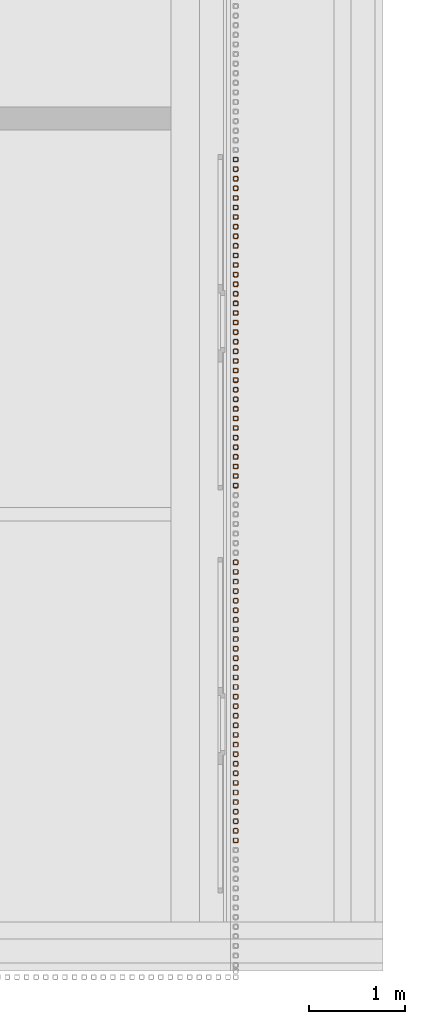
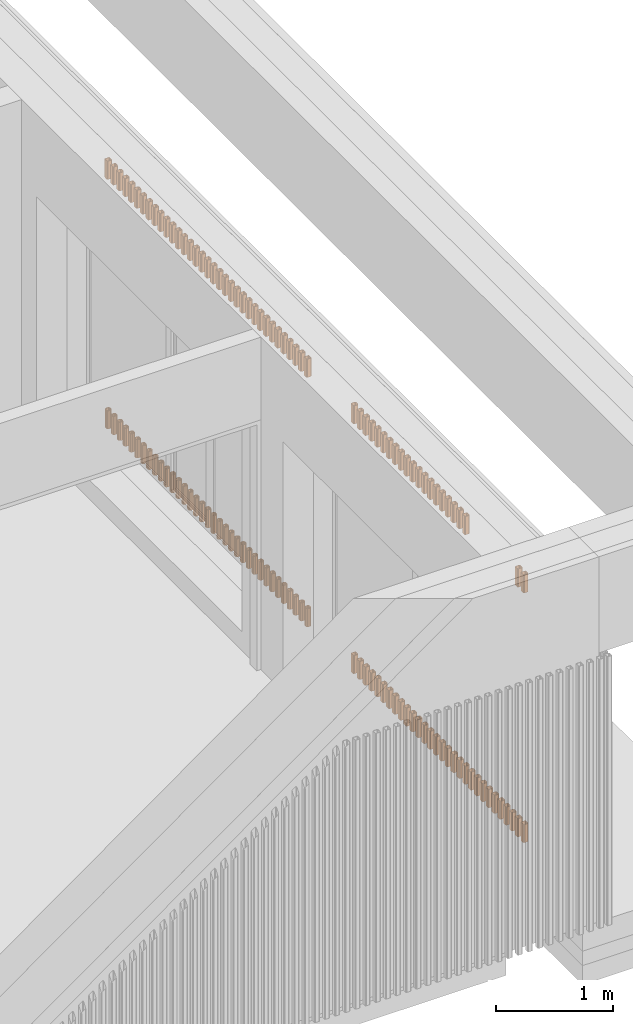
# One storey, part 91 of 112: 122 proxies.
"""IFC2X3 building model written with IfcOpenShell, lengths in millimetres."""

from ifc_helpers import new_model, entity, si_unit, converted_unit, derived_unit, money_unit, direction, frame, origin_with_axes, place, context, subcontext, project, spatial, faceted_brep, source, transform, mapped, material, type_object, element, save


model = new_model("IFC2X3")

# Units and contexts
model_context = context("Model", 3, precision=0.01, world=origin_with_axes(), true_north=direction((0.0, 1.0)))
body_context = subcontext(model_context, "Body", "Model", "MODEL_VIEW")
ifc_project = project(units=[si_unit("LENGTHUNIT", "METRE", prefix="MILLI"), si_unit("AREAUNIT", "SQUARE_METRE"), si_unit("VOLUMEUNIT", "CUBIC_METRE"), converted_unit("PLANEANGLEUNIT", "DEGREE", entity("IfcPlaneAngleMeasure", 0.0174532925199), si_unit("PLANEANGLEUNIT", "RADIAN"), dimensions=[0, 0, 0, 0, 0, 0, 0]), si_unit("SOLIDANGLEUNIT", "STERADIAN"), money_unit("EUR"), converted_unit("TIMEUNIT", "Year", entity("IfcTimeMeasure", 31556926.0), si_unit("TIMEUNIT", "SECOND"), dimensions=[0, 0, 1, 0, 0, 0, 0]), si_unit("MASSUNIT", "GRAM", prefix="KILO"), si_unit("THERMODYNAMICTEMPERATUREUNIT", "DEGREE_CELSIUS"), si_unit("LUMINOUSINTENSITYUNIT", "LUMEN"), si_unit("ENERGYUNIT", "JOULE", prefix="MEGA"), derived_unit("THERMALCONDUCTANCEUNIT", [(si_unit("POWERUNIT", "WATT"), 1), (si_unit("LENGTHUNIT", "METRE"), -1), (si_unit("THERMODYNAMICTEMPERATUREUNIT", "KELVIN"), -1)]), derived_unit("SPECIFICHEATCAPACITYUNIT", [(si_unit("ENERGYUNIT", "JOULE"), 1), (si_unit("MASSUNIT", "GRAM", prefix="KILO"), -1), (si_unit("THERMODYNAMICTEMPERATUREUNIT", "KELVIN"), -1)]), derived_unit("MASSDENSITYUNIT", [(si_unit("MASSUNIT", "GRAM", prefix="KILO"), 1), (si_unit("VOLUMEUNIT", "CUBIC_METRE"), -1)])], contexts=[model_context])

# Site, building, storey
site_placement = place(None, origin_with_axes())
site = spatial("IfcSite", under=ifc_project, at=site_placement, Name="Politse- ja Piirivalveameti ning Päästeameti ühishoone", CompositionType="ELEMENT")
building_placement = place(site_placement, origin_with_axes())
building = spatial("IfcBuilding", under=site, at=building_placement, Name="Politse- ja Piirivalveameti ning Päästeameti ühishoone", CompositionType="ELEMENT")
storey_placement = place(building_placement, origin_with_axes())
storey = spatial("IfcBuildingStorey", under=building, at=storey_placement, Name="Esimene korrus", CompositionType="ELEMENT", Elevation=0.0)

# Proxies
ifc_material = material(Name="ET-05_Teras")
building_element_proxy_type = type_object("IfcBuildingElementProxyType", Name="SHS Cold-Formed Column 23", PredefinedType="NOTDEFINED")
shared_shape_1 = source(origin_with_axes(), body_context, "Body", "Brep", [
    faceted_brep([(-8.992, -25.0, 0.0), (8.992, -25.0, 0.0), (8.992, -25.0, 190.0), (-8.992, -25.0, 190.0), (-20.3113653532, -20.3113653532, 0.0), (-25.0, -8.992, 0.0), (-25.0, 8.992, 0.0), (-20.3113653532, 20.3113653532, 0.0), (-8.992, 25.0, 0.0), (8.992, 25.0, 0.0), (20.3113653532, 20.3113653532, 0.0), (25.0, 8.992, 0.0), (25.0, -8.992, 0.0), (20.3113653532, -20.3113653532, 0.0), (-8.992, -16.996, 0.0), (8.992, -16.996, 0.0), (14.6516826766, -14.6516826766, 0.0), (16.996, -8.992, 0.0), (16.996, 8.992, 0.0), (14.6516826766, 14.6516826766, 0.0), (8.992, 16.996, 0.0), (-8.992, 16.996, 0.0), (-14.6516826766, 14.6516826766, 0.0), (-16.996, 8.992, 0.0), (-16.996, -8.992, 0.0), (-14.6516826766, -14.6516826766, 0.0), (20.3113653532, -20.3113653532, 190.0), (25.0, -8.992, 190.0), (25.0, 8.992, 190.0), (20.3113653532, 20.3113653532, 190.0), (8.992, 25.0, 190.0), (-8.992, 25.0, 190.0), (-20.3113653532, 20.3113653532, 190.0), (-25.0, 8.992, 190.0), (-25.0, -8.992, 190.0), (-20.3113653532, -20.3113653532, 190.0), (-8.992, -16.996, 190.0), (-14.6516826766, -14.6516826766, 190.0), (-16.996, -8.992, 190.0), (-16.996, 8.992, 190.0), (-14.6516826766, 14.6516826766, 190.0), (-8.992, 16.996, 190.0), (8.992, 16.996, 190.0), (14.6516826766, 14.6516826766, 190.0), (16.996, 8.992, 190.0), (16.996, -8.992, 190.0), (14.6516826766, -14.6516826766, 190.0), (8.992, -16.996, 190.0)], [[[0, 1, 2, 3]], [[0, 4, 5, 6, 7, 8, 9, 10, 11, 12, 13, 1], [14, 15, 16, 17, 18, 19, 20, 21, 22, 23, 24, 25]], [[1, 13, 26, 2]], [[3, 2, 26, 27, 28, 29, 30, 31, 32, 33, 34, 35], [36, 37, 38, 39, 40, 41, 42, 43, 44, 45, 46, 47]], [[4, 0, 3, 35]], [[5, 4, 35, 34]], [[6, 5, 34, 33]], [[7, 6, 33, 32]], [[8, 7, 32, 31]], [[9, 8, 31, 30]], [[10, 9, 30, 29]], [[11, 10, 29, 28]], [[12, 11, 28, 27]], [[13, 12, 27, 26]], [[15, 14, 36, 47]], [[16, 15, 47, 46]], [[17, 16, 46, 45]], [[18, 17, 45, 44]], [[19, 18, 44, 43]], [[20, 19, 43, 42]], [[21, 20, 42, 41]], [[22, 21, 41, 40]], [[23, 22, 40, 39]], [[24, 23, 39, 38]], [[25, 24, 38, 37]], [[14, 25, 37, 36]]]),
])
for number, where, z_axis, x_axis in (
    (1, (68635.2095212, 7850.07024411, 0.0), (0.0, 0.0, 1.0), (1.0, 0.0, 0.0)),
    (2, (68635.2095212, 7950.07024411, 0.0), (0.0, 0.0, 1.0), (1.0, 0.0, 0.0)),
    (3, (68635.2095212, 4550.07024411, 0.0), (0.0, 0.0, 1.0), (1.0, 0.0, 0.0)),
    (4, (68635.2095212, 4650.07024411, 0.0), (0.0, 0.0, 1.0), (1.0, 0.0, 0.0)),
    (5, (68635.2095212, 4750.07024411, 0.0), (0.0, 0.0, 1.0), (1.0, 0.0, 0.0)),
    (6, (68635.2095212, 4850.07024411, 0.0), (0.0, 0.0, 1.0), (1.0, 0.0, 0.0)),
    (7, (68635.2095212, 4950.07024411, 0.0), (0.0, 0.0, 1.0), (1.0, 0.0, 0.0)),
    (8, (68635.2095212, 5050.07024411, 0.0), (0.0, 0.0, 1.0), (1.0, 0.0, 0.0)),
    (9, (68635.2095212, 5150.07024411, 0.0), (0.0, 0.0, 1.0), (1.0, 0.0, 0.0)),
    (10, (68635.2095212, 5250.07024411, 0.0), (0.0, 0.0, 1.0), (1.0, 0.0, 0.0)),
    (11, (68635.2095212, 5350.07024411, 0.0), (0.0, 0.0, 1.0), (1.0, 0.0, 0.0)),
    (12, (68635.2095212, 5450.07024411, 0.0), (0.0, 0.0, 1.0), (1.0, 0.0, 0.0)),
    (13, (68635.2095212, 5550.07024411, 0.0), (0.0, 0.0, 1.0), (1.0, 0.0, 0.0)),
    (14, (68635.2095212, 5650.07024411, 0.0), (0.0, 0.0, 1.0), (1.0, 0.0, 0.0)),
    (15, (68635.2095212, 5750.07024411, 0.0), (0.0, 0.0, 1.0), (1.0, 0.0, 0.0)),
    (16, (68635.2095212, 5850.07024411, 0.0), (0.0, 0.0, 1.0), (1.0, 0.0, 0.0)),
    (17, (68635.2095212, 5950.07024411, 0.0), (0.0, 0.0, 1.0), (1.0, 0.0, 0.0)),
    (18, (68635.2095212, 6050.07024411, 0.0), (0.0, 0.0, 1.0), (1.0, 0.0, 0.0)),
    (19, (68635.2095212, 6150.07024411, 0.0), (0.0, 0.0, 1.0), (1.0, 0.0, 0.0)),
    (20, (68635.2095212, 6250.07024411, 0.0), (0.0, 0.0, 1.0), (1.0, 0.0, 0.0)),
    (21, (68635.2095212, 6350.07024411, 0.0), (0.0, 0.0, 1.0), (1.0, 0.0, 0.0)),
    (22, (68635.2095212, 6450.07024411, 0.0), (0.0, 0.0, 1.0), (1.0, 0.0, 0.0)),
    (23, (68635.2095212, 6550.07024411, 0.0), (0.0, 0.0, 1.0), (1.0, 0.0, 0.0)),
    (24, (68635.2095212, 6650.07024411, 0.0), (0.0, 0.0, 1.0), (1.0, 0.0, 0.0)),
    (25, (68635.2095212, 6750.07024411, 0.0), (0.0, 0.0, 1.0), (1.0, 0.0, 0.0)),
    (26, (68635.2095212, 6850.07024411, 0.0), (0.0, 0.0, 1.0), (1.0, 0.0, 0.0)),
    (27, (68635.2095212, 6950.07024411, 0.0), (0.0, 0.0, 1.0), (1.0, 0.0, 0.0)),
    (28, (68635.2095212, 7050.07024411, 0.0), (0.0, 0.0, 1.0), (1.0, 0.0, 0.0)),
    (29, (68635.2095212, 7150.07024411, 0.0), (0.0, 0.0, 1.0), (1.0, 0.0, 0.0)),
    (30, (68635.2095212, 7250.07024411, 0.0), (0.0, 0.0, 1.0), (1.0, 0.0, 0.0)),
    (31, (68635.2095212, 7350.07024411, 0.0), (0.0, 0.0, 1.0), (1.0, 0.0, 0.0)),
    (32, (68635.2095212, 7450.07024411, 0.0), (0.0, 0.0, 1.0), (1.0, 0.0, 0.0)),
    (33, (68635.2095212, 7550.07024411, 0.0), (0.0, 0.0, 1.0), (1.0, 0.0, 0.0)),
    (34, (68635.2095212, 7650.07024411, 0.0), (0.0, 0.0, 1.0), (1.0, 0.0, 0.0)),
    (35, (68635.2095212, 7750.07024411, 0.0), (0.0, 0.0, 1.0), (1.0, 0.0, 0.0)),
):
    element("IfcBuildingElementProxy", number, at=place(storey_placement, frame(where, z_axis=z_axis, x_axis=x_axis)), inside=storey, type_object=building_element_proxy_type, material=ifc_material, Name="Fassaadiribid", context=body_context, shape_type="MappedRepresentation", body=[
        mapped(shared_shape_1, transform((0.0, 0.0, 0.0))),
    ])
shared_shape_2 = source(origin_with_axes(), body_context, "Body", "Brep", [
    faceted_brep([(-17.0, -25.0, 0.0), (17.0, -25.0, 0.0), (17.0, -25.0, 190.0), (-17.0, -25.0, 190.0), (-22.6568542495, -22.6568542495, 0.0), (-25.0, -17.0, 0.0), (-25.0, 17.0, 0.0), (-22.6568542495, 22.6568542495, 0.0), (-17.0, 25.0, 0.0), (17.0, 25.0, 0.0), (22.6568542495, 22.6568542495, 0.0), (25.0, 17.0, 0.0), (25.0, -17.0, 0.0), (22.6568542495, -22.6568542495, 0.0), (-17.0, -21.0, 0.0), (17.0, -21.0, 0.0), (19.8284271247, -19.8284271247, 0.0), (21.0, -17.0, 0.0), (21.0, 17.0, 0.0), (19.8284271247, 19.8284271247, 0.0), (17.0, 21.0, 0.0), (-17.0, 21.0, 0.0), (-19.8284271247, 19.8284271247, 0.0), (-21.0, 17.0, 0.0), (-21.0, -17.0, 0.0), (-19.8284271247, -19.8284271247, 0.0), (22.6568542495, -22.6568542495, 190.0), (25.0, -17.0, 190.0), (25.0, 17.0, 190.0), (22.6568542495, 22.6568542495, 190.0), (17.0, 25.0, 190.0), (-17.0, 25.0, 190.0), (-22.6568542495, 22.6568542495, 190.0), (-25.0, 17.0, 190.0), (-25.0, -17.0, 190.0), (-22.6568542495, -22.6568542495, 190.0), (-17.0, -21.0, 190.0), (-19.8284271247, -19.8284271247, 190.0), (-21.0, -17.0, 190.0), (-21.0, 17.0, 190.0), (-19.8284271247, 19.8284271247, 190.0), (-17.0, 21.0, 190.0), (17.0, 21.0, 190.0), (19.8284271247, 19.8284271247, 190.0), (21.0, 17.0, 190.0), (21.0, -17.0, 190.0), (19.8284271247, -19.8284271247, 190.0), (17.0, -21.0, 190.0)], [[[0, 1, 2, 3]], [[0, 4, 5, 6, 7, 8, 9, 10, 11, 12, 13, 1], [14, 15, 16, 17, 18, 19, 20, 21, 22, 23, 24, 25]], [[1, 13, 26, 2]], [[3, 2, 26, 27, 28, 29, 30, 31, 32, 33, 34, 35], [36, 37, 38, 39, 40, 41, 42, 43, 44, 45, 46, 47]], [[4, 0, 3, 35]], [[5, 4, 35, 34]], [[6, 5, 34, 33]], [[7, 6, 33, 32]], [[8, 7, 32, 31]], [[9, 8, 31, 30]], [[10, 9, 30, 29]], [[11, 10, 29, 28]], [[12, 11, 28, 27]], [[13, 12, 27, 26]], [[15, 14, 36, 47]], [[16, 15, 47, 46]], [[17, 16, 46, 45]], [[18, 17, 45, 44]], [[19, 18, 44, 43]], [[20, 19, 43, 42]], [[21, 20, 42, 41]], [[22, 21, 41, 40]], [[23, 22, 40, 39]], [[24, 23, 39, 38]], [[25, 24, 38, 37]], [[14, 25, 37, 36]]]),
])
for number, where, z_axis, x_axis in (
    (36, (68635.2095212, 7950.07024411, 2600.0), (0.0, 0.0, 1.0), (1.0, 0.0, 0.0)),
    (37, (68635.2095212, 7850.07024411, 2600.0), (0.0, 0.0, 1.0), (1.0, 0.0, 0.0)),
    (38, (68635.2095212, 7750.07024411, 2600.0), (0.0, 0.0, 1.0), (1.0, 0.0, 0.0)),
    (39, (68635.2095212, 7650.07024411, 2600.0), (0.0, 0.0, 1.0), (1.0, 0.0, 0.0)),
    (40, (68635.2095212, 7550.07024411, 2600.0), (0.0, 0.0, 1.0), (1.0, 0.0, 0.0)),
    (41, (68635.2095212, 7450.07024411, 2600.0), (0.0, 0.0, 1.0), (1.0, 0.0, 0.0)),
    (42, (68635.2095212, 7350.07024411, 2600.0), (0.0, 0.0, 1.0), (1.0, 0.0, 0.0)),
    (43, (68635.2095212, 7250.07024411, 2600.0), (0.0, 0.0, 1.0), (1.0, 0.0, 0.0)),
    (44, (68635.2095212, 7150.07024411, 2600.0), (0.0, 0.0, 1.0), (1.0, 0.0, 0.0)),
    (45, (68635.2095212, 7050.07024411, 2600.0), (0.0, 0.0, 1.0), (1.0, 0.0, 0.0)),
    (46, (68635.2095212, 6950.07024411, 2600.0), (0.0, 0.0, 1.0), (1.0, 0.0, 0.0)),
    (47, (68635.2095212, 6850.07024411, 2600.0), (0.0, 0.0, 1.0), (1.0, 0.0, 0.0)),
    (48, (68635.2095212, 6750.07024411, 2600.0), (0.0, 0.0, 1.0), (1.0, 0.0, 0.0)),
    (49, (68635.2095212, 6650.07024411, 2600.0), (0.0, 0.0, 1.0), (1.0, 0.0, 0.0)),
    (50, (68635.2095212, 6550.07024411, 2600.0), (0.0, 0.0, 1.0), (1.0, 0.0, 0.0)),
    (51, (68635.2095212, 6450.07024411, 2600.0), (0.0, 0.0, 1.0), (1.0, 0.0, 0.0)),
    (52, (68635.2095212, 6350.07024411, 2600.0), (0.0, 0.0, 1.0), (1.0, 0.0, 0.0)),
    (53, (68635.2095212, 6250.07024411, 2600.0), (0.0, 0.0, 1.0), (1.0, 0.0, 0.0)),
    (54, (68635.2095212, 6150.07024411, 2600.0), (0.0, 0.0, 1.0), (1.0, 0.0, 0.0)),
    (55, (68635.2095212, 6050.07024411, 2600.0), (0.0, 0.0, 1.0), (1.0, 0.0, 0.0)),
    (56, (68635.2095212, 5950.07024411, 2600.0), (0.0, 0.0, 1.0), (1.0, 0.0, 0.0)),
    (57, (68635.2095212, 5850.07024411, 2600.0), (0.0, 0.0, 1.0), (1.0, 0.0, 0.0)),
    (58, (68635.2095212, 5750.07024411, 2600.0), (0.0, 0.0, 1.0), (1.0, 0.0, 0.0)),
    (59, (68635.2095212, 5650.07024411, 2600.0), (0.0, 0.0, 1.0), (1.0, 0.0, 0.0)),
    (60, (68635.2095212, 5550.07024411, 2600.0), (0.0, 0.0, 1.0), (1.0, 0.0, 0.0)),
    (61, (68635.2095212, 5450.07024411, 2600.0), (0.0, 0.0, 1.0), (1.0, 0.0, 0.0)),
    (62, (68635.2095212, 5350.07024411, 2600.0), (0.0, 0.0, 1.0), (1.0, 0.0, 0.0)),
    (63, (68635.2095212, 5250.07024411, 2600.0), (0.0, 0.0, 1.0), (1.0, 0.0, 0.0)),
    (64, (68635.2095212, 5150.07024411, 2600.0), (0.0, 0.0, 1.0), (1.0, 0.0, 0.0)),
    (65, (68635.2095212, 5050.07024411, 2600.0), (0.0, 0.0, 1.0), (1.0, 0.0, 0.0)),
    (66, (68635.2095212, 4950.07024411, 2600.0), (0.0, 0.0, 1.0), (1.0, 0.0, 0.0)),
    (67, (68635.2095212, 4850.07024411, 2600.0), (0.0, 0.0, 1.0), (1.0, 0.0, 0.0)),
    (68, (68635.2095212, 4750.07024411, 2600.0), (0.0, 0.0, 1.0), (1.0, 0.0, 0.0)),
    (69, (68635.2095212, 4650.07024411, 2600.0), (0.0, 0.0, 1.0), (1.0, 0.0, 0.0)),
    (70, (68635.2095212, 4550.07024411, 2600.0), (0.0, 0.0, 1.0), (1.0, 0.0, 0.0)),
    (71, (68635.2095212, 3750.07024411, 2600.0), (0.0, 0.0, 1.0), (1.0, 0.0, 0.0)),
    (72, (68635.2095212, 3650.07024411, 2600.0), (0.0, 0.0, 1.0), (1.0, 0.0, 0.0)),
    (73, (68635.2095212, 3550.07024411, 2600.0), (0.0, 0.0, 1.0), (1.0, 0.0, 0.0)),
    (74, (68635.2095212, 3450.07024411, 2600.0), (0.0, 0.0, 1.0), (1.0, 0.0, 0.0)),
    (75, (68635.2095212, 3350.07024411, 2600.0), (0.0, 0.0, 1.0), (1.0, 0.0, 0.0)),
    (76, (68635.2095212, 3250.07024411, 2600.0), (0.0, 0.0, 1.0), (1.0, 0.0, 0.0)),
    (77, (68635.2095212, 3150.07024411, 2600.0), (0.0, 0.0, 1.0), (1.0, 0.0, 0.0)),
    (78, (68635.2095212, 3050.07024411, 2600.0), (0.0, 0.0, 1.0), (1.0, 0.0, 0.0)),
    (79, (68635.2095212, 2950.07024411, 2600.0), (0.0, 0.0, 1.0), (1.0, 0.0, 0.0)),
    (80, (68635.2095212, 2850.07024411, 2600.0), (0.0, 0.0, 1.0), (1.0, 0.0, 0.0)),
    (81, (68635.2095212, 2750.07024411, 2600.0), (0.0, 0.0, 1.0), (1.0, 0.0, 0.0)),
    (82, (68635.2095212, 2650.07024411, 2600.0), (0.0, 0.0, 1.0), (1.0, 0.0, 0.0)),
    (83, (68635.2095212, 2550.07024411, 2600.0), (0.0, 0.0, 1.0), (1.0, 0.0, 0.0)),
    (84, (68635.2095212, 2450.07024411, 2600.0), (0.0, 0.0, 1.0), (1.0, 0.0, 0.0)),
    (85, (68635.2095212, 2350.07024411, 2600.0), (0.0, 0.0, 1.0), (1.0, 0.0, 0.0)),
    (86, (68635.2095212, 2250.07024411, 2600.0), (0.0, 0.0, 1.0), (1.0, 0.0, 0.0)),
    (87, (68635.2095212, 2150.07024411, 2600.0), (0.0, 0.0, 1.0), (1.0, 0.0, 0.0)),
    (88, (68635.2095212, 2050.07024411, 2600.0), (0.0, 0.0, 1.0), (1.0, 0.0, 0.0)),
    (89, (68635.2095212, 1950.07024411, 2600.0), (0.0, 0.0, 1.0), (1.0, 0.0, 0.0)),
    (90, (68635.2095212, 1850.07024411, 2600.0), (0.0, 0.0, 1.0), (1.0, 0.0, 0.0)),
    (91, (68635.2095212, 950.070244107, 2600.0), (0.0, 0.0, 1.0), (1.0, 0.0, 0.0)),
    (92, (68635.2095212, 850.070244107, 2600.0), (0.0, 0.0, 1.0), (1.0, 0.0, 0.0)),
    (93, (68635.2095212, 3750.07024411, 0.0), (0.0, 0.0, 1.0), (1.0, 0.0, 0.0)),
    (94, (68635.2095212, 3650.07024411, 0.0), (0.0, 0.0, 1.0), (1.0, 0.0, 0.0)),
    (95, (68635.2095212, 3550.07024411, 0.0), (0.0, 0.0, 1.0), (1.0, 0.0, 0.0)),
    (96, (68635.2095212, 3450.07024411, 0.0), (0.0, 0.0, 1.0), (1.0, 0.0, 0.0)),
    (97, (68635.2095212, 3350.07024411, 0.0), (0.0, 0.0, 1.0), (1.0, 0.0, 0.0)),
    (98, (68635.2095212, 3250.07024411, 0.0), (0.0, 0.0, 1.0), (1.0, 0.0, 0.0)),
    (99, (68635.2095212, 3150.07024411, 0.0), (0.0, 0.0, 1.0), (1.0, 0.0, 0.0)),
    (100, (68635.2095212, 3050.07024411, 0.0), (0.0, 0.0, 1.0), (1.0, 0.0, 0.0)),
    (101, (68635.2095212, 2950.07024411, 0.0), (0.0, 0.0, 1.0), (1.0, 0.0, 0.0)),
    (102, (68635.2095212, 2850.07024411, 0.0), (0.0, 0.0, 1.0), (1.0, 0.0, 0.0)),
    (103, (68635.2095212, 2750.07024411, 0.0), (0.0, 0.0, 1.0), (1.0, 0.0, 0.0)),
    (104, (68635.2095212, 2650.07024411, 0.0), (0.0, 0.0, 1.0), (1.0, 0.0, 0.0)),
    (105, (68635.2095212, 2550.07024411, 0.0), (0.0, 0.0, 1.0), (1.0, 0.0, 0.0)),
    (106, (68635.2095212, 2450.07024411, 0.0), (0.0, 0.0, 1.0), (1.0, 0.0, 0.0)),
    (107, (68635.2095212, 2350.07024411, 0.0), (0.0, 0.0, 1.0), (1.0, 0.0, 0.0)),
    (108, (68635.2095212, 2250.07024411, 0.0), (0.0, 0.0, 1.0), (1.0, 0.0, 0.0)),
    (109, (68635.2095212, 2150.07024411, 0.0), (0.0, 0.0, 1.0), (1.0, 0.0, 0.0)),
    (110, (68635.2095212, 2050.07024411, 0.0), (0.0, 0.0, 1.0), (1.0, 0.0, 0.0)),
    (111, (68635.2095212, 1950.07024411, 0.0), (0.0, 0.0, 1.0), (1.0, 0.0, 0.0)),
    (112, (68635.2095212, 1850.07024411, 0.0), (0.0, 0.0, 1.0), (1.0, 0.0, 0.0)),
    (113, (68635.2095212, 1750.07024411, 0.0), (0.0, 0.0, 1.0), (1.0, 0.0, 0.0)),
    (114, (68635.2095212, 1650.07024411, 0.0), (0.0, 0.0, 1.0), (1.0, 0.0, 0.0)),
    (115, (68635.2095212, 1550.07024411, 0.0), (0.0, 0.0, 1.0), (1.0, 0.0, 0.0)),
    (116, (68635.2095212, 1450.07024411, 0.0), (0.0, 0.0, 1.0), (1.0, 0.0, 0.0)),
    (117, (68635.2095212, 1350.07024411, 0.0), (0.0, 0.0, 1.0), (1.0, 0.0, 0.0)),
    (118, (68635.2095212, 1250.07024411, 0.0), (0.0, 0.0, 1.0), (1.0, 0.0, 0.0)),
    (119, (68635.2095212, 1150.07024411, 0.0), (0.0, 0.0, 1.0), (1.0, 0.0, 0.0)),
    (120, (68635.2095212, 1050.07024411, 0.0), (0.0, 0.0, 1.0), (1.0, 0.0, 0.0)),
    (121, (68635.2095212, 950.070244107, 0.0), (0.0, 0.0, 1.0), (1.0, 0.0, 0.0)),
    (122, (68635.2095212, 850.070244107, 0.0), (0.0, 0.0, 1.0), (1.0, 0.0, 0.0)),
):
    element("IfcBuildingElementProxy", number, at=place(storey_placement, frame(where, z_axis=z_axis, x_axis=x_axis)), inside=storey, type_object=building_element_proxy_type, material=ifc_material, Name="Fassaadiribid", context=body_context, shape_type="MappedRepresentation", body=[
        mapped(shared_shape_2, transform((0.0, 0.0, 0.0))),
    ])

save(model, "model.ifc")
